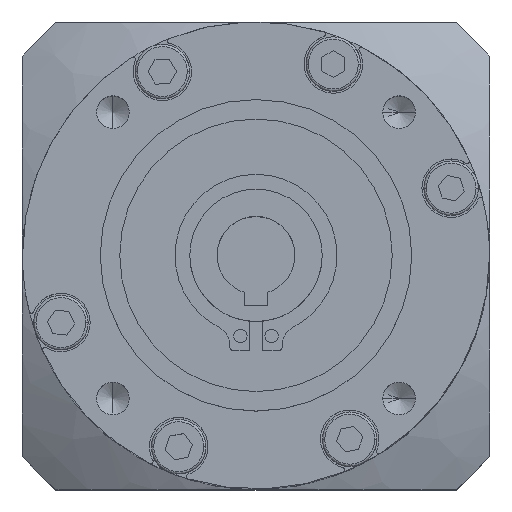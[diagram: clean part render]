
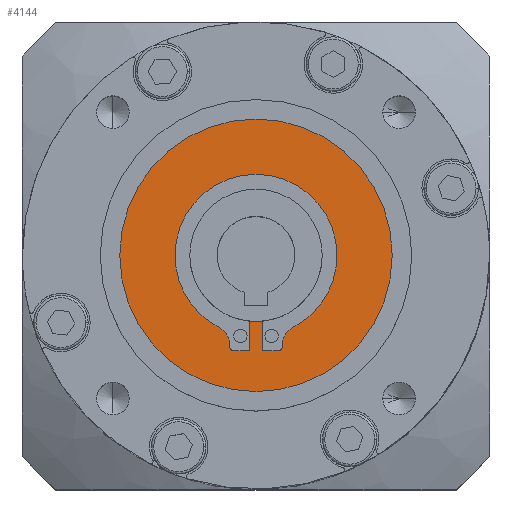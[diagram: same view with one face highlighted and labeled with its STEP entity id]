
A CAD part, top view. The second image highlights one B-rep face of the part: STEP entity #4144.
In plain terms, the highlighted planar face has unit normal (0, 0, 1).
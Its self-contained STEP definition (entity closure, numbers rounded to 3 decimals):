
#745 = CIRCLE ( 'NONE', #38948, 17.5 ) ;
#1318 = CARTESIAN_POINT ( 'NONE',  ( -2.85, -11.757, -1. ) ) ;
#1343 = VERTEX_POINT ( 'NONE', #37160 ) ;
#1429 = EDGE_CURVE ( 'NONE', #5023, #18640, #12507, .T. ) ;
#1853 = CARTESIAN_POINT ( 'NONE',  ( -4.716, -9.269, -1. ) ) ;
#1964 = CARTESIAN_POINT ( 'NONE',  ( 4.716, -9.269, -1. ) ) ;
#2012 = AXIS2_PLACEMENT_3D ( 'NONE', #28130, #9085, #31294 ) ;
#2051 = LINE ( 'NONE', #25448, #34850 ) ;
#2143 = AXIS2_PLACEMENT_3D ( 'NONE', #1318, #23572, #4523 ) ;
#2567 = CARTESIAN_POINT ( 'NONE',  ( 17.5, 0., -1. ) ) ;
#2806 = DIRECTION ( 'NONE',  ( -1., 0., 0. ) ) ;
#2986 = CARTESIAN_POINT ( 'NONE',  ( -0.85, -12.257, -1. ) ) ;
#3207 = CARTESIAN_POINT ( 'NONE',  ( 0., 0., -1. ) ) ;
#3408 = CARTESIAN_POINT ( 'NONE',  ( 0., 0., -1. ) ) ;
#3739 = VERTEX_POINT ( 'NONE', #2567 ) ;
#3825 = ORIENTED_EDGE ( 'NONE', *, *, #6936, .F. ) ;
#4043 = EDGE_LOOP ( 'NONE', ( #36803, #24426 ) ) ;
#4144 = ADVANCED_FACE ( 'NONE', ( #32284, #40715 ), #7461, .F. ) ;
#4146 = DIRECTION ( 'NONE',  ( 0., 0., 1. ) ) ;
#4301 = CARTESIAN_POINT ( 'NONE',  ( 10.4, 0., -1. ) ) ;
#4523 = DIRECTION ( 'NONE',  ( -1., 0., 0. ) ) ;
#4553 = VERTEX_POINT ( 'NONE', #16538 ) ;
#4583 = DIRECTION ( 'NONE',  ( 0., 0., 1. ) ) ;
#4636 = DIRECTION ( 'NONE',  ( 0., 0., -1. ) ) ;
#5023 = VERTEX_POINT ( 'NONE', #7530 ) ;
#5799 = CARTESIAN_POINT ( 'NONE',  ( -3.35, -11.497, -1. ) ) ;
#6125 = CIRCLE ( 'NONE', #35003, 10.4 ) ;
#6424 = DIRECTION ( 'NONE',  ( 1., 0., 0. ) ) ;
#6484 = VERTEX_POINT ( 'NONE', #4301 ) ;
#6685 = EDGE_CURVE ( 'NONE', #17704, #10187, #32875, .T. ) ;
#6919 = CARTESIAN_POINT ( 'NONE',  ( 0., 0., -1. ) ) ;
#6936 = EDGE_CURVE ( 'NONE', #22009, #4553, #33363, .T. ) ;
#7156 = DIRECTION ( 'NONE',  ( -1., 0., 0. ) ) ;
#7461 = PLANE ( 'NONE',  #14784 ) ;
#7530 = CARTESIAN_POINT ( 'NONE',  ( 3.35, -11.497, -1. ) ) ;
#7816 = DIRECTION ( 'NONE',  ( 0., -1., 0. ) ) ;
#8199 = ORIENTED_EDGE ( 'NONE', *, *, #37692, .F. ) ;
#8446 = EDGE_CURVE ( 'NONE', #40329, #37466, #30286, .T. ) ;
#8501 = ORIENTED_EDGE ( 'NONE', *, *, #37890, .F. ) ;
#9085 = DIRECTION ( 'NONE',  ( 0., 0., -1. ) ) ;
#9141 = CARTESIAN_POINT ( 'NONE',  ( 0., -12.257, -1. ) ) ;
#9271 = EDGE_CURVE ( 'NONE', #37466, #11276, #30253, .T. ) ;
#9433 = ORIENTED_EDGE ( 'NONE', *, *, #9650, .F. ) ;
#9515 = EDGE_CURVE ( 'NONE', #1343, #5023, #17773, .T. ) ;
#9588 = CIRCLE ( 'NONE', #21454, 2.5 ) ;
#9650 = EDGE_CURVE ( 'NONE', #10187, #1343, #32723, .T. ) ;
#9731 = VERTEX_POINT ( 'NONE', #20419 ) ;
#10082 = DIRECTION ( 'NONE',  ( -1., 0., 0. ) ) ;
#10187 = VERTEX_POINT ( 'NONE', #19075 ) ;
#11023 = EDGE_CURVE ( 'NONE', #6484, #12918, #29640, .T. ) ;
#11276 = VERTEX_POINT ( 'NONE', #40035 ) ;
#12079 = ORIENTED_EDGE ( 'NONE', *, *, #8446, .F. ) ;
#12278 = ORIENTED_EDGE ( 'NONE', *, *, #1429, .F. ) ;
#12507 = CIRCLE ( 'NONE', #2012, 2.5 ) ;
#12918 = VERTEX_POINT ( 'NONE', #33175 ) ;
#13270 = DIRECTION ( 'NONE',  ( 0., 0., 1. ) ) ;
#13808 = DIRECTION ( 'NONE',  ( 0., 0., -1. ) ) ;
#14036 = CARTESIAN_POINT ( 'NONE',  ( -3.35, 0., -1. ) ) ;
#14115 = AXIS2_PLACEMENT_3D ( 'NONE', #23203, #4146, #26389 ) ;
#14776 = CARTESIAN_POINT ( 'NONE',  ( -3.35, -11.757, -1. ) ) ;
#14784 = AXIS2_PLACEMENT_3D ( 'NONE', #26483, #13808, #36045 ) ;
#14943 = ORIENTED_EDGE ( 'NONE', *, *, #11023, .F. ) ;
#14944 = VECTOR ( 'NONE', #21512, 1000. ) ;
#15056 = ORIENTED_EDGE ( 'NONE', *, *, #29204, .F. ) ;
#15405 = AXIS2_PLACEMENT_3D ( 'NONE', #40872, #21872, #2806 ) ;
#15541 = ORIENTED_EDGE ( 'NONE', *, *, #32177, .F. ) ;
#16538 = CARTESIAN_POINT ( 'NONE',  ( 0.85, -8.457, -1. ) ) ;
#17704 = VERTEX_POINT ( 'NONE', #23843 ) ;
#17763 = LINE ( 'NONE', #20360, #35701 ) ;
#17773 = LINE ( 'NONE', #31945, #33723 ) ;
#17792 = VERTEX_POINT ( 'NONE', #1853 ) ;
#18640 = VERTEX_POINT ( 'NONE', #1964 ) ;
#19075 = CARTESIAN_POINT ( 'NONE',  ( 2.85, -12.257, -1. ) ) ;
#20102 = VECTOR ( 'NONE', #28192, 1000. ) ;
#20360 = CARTESIAN_POINT ( 'NONE',  ( 0.85, 0., -1. ) ) ;
#20419 = CARTESIAN_POINT ( 'NONE',  ( -17.5, 0., -1. ) ) ;
#20433 = ORIENTED_EDGE ( 'NONE', *, *, #9271, .F. ) ;
#21136 = EDGE_LOOP ( 'NONE', ( #15056, #20433, #12079, #8501, #8199, #14943, #37512, #12278, #27686, #9433, #37081, #23666, #3825, #15541 ) ) ;
#21454 = AXIS2_PLACEMENT_3D ( 'NONE', #23693, #4636, #26888 ) ;
#21512 = DIRECTION ( 'NONE',  ( 1., 0., 0. ) ) ;
#21857 = VECTOR ( 'NONE', #7816, 1000. ) ;
#21872 = DIRECTION ( 'NONE',  ( 0., 0., 1. ) ) ;
#22009 = VERTEX_POINT ( 'NONE', #26065 ) ;
#22130 = CIRCLE ( 'NONE', #31746, 17.5 ) ;
#22146 = EDGE_CURVE ( 'NONE', #4553, #17704, #17763, .T. ) ;
#22390 = DIRECTION ( 'NONE',  ( 0., 1., 0. ) ) ;
#23203 = CARTESIAN_POINT ( 'NONE',  ( 2.85, -11.757, -1. ) ) ;
#23572 = DIRECTION ( 'NONE',  ( 0., 0., 1. ) ) ;
#23632 = CARTESIAN_POINT ( 'NONE',  ( 0., 0., -1. ) ) ;
#23666 = ORIENTED_EDGE ( 'NONE', *, *, #22146, .F. ) ;
#23693 = CARTESIAN_POINT ( 'NONE',  ( -5.85, -11.497, -1. ) ) ;
#23843 = CARTESIAN_POINT ( 'NONE',  ( 0.85, -12.257, -1. ) ) ;
#24331 = EDGE_CURVE ( 'NONE', #18640, #6484, #30582, .T. ) ;
#24426 = ORIENTED_EDGE ( 'NONE', *, *, #24872, .T. ) ;
#24872 = EDGE_CURVE ( 'NONE', #9731, #3739, #745, .T. ) ;
#25041 = EDGE_CURVE ( 'NONE', #3739, #9731, #22130, .T. ) ;
#25448 = CARTESIAN_POINT ( 'NONE',  ( -0.85, 0., -1. ) ) ;
#25459 = DIRECTION ( 'NONE',  ( 0., 0., 1. ) ) ;
#25567 = DIRECTION ( 'NONE',  ( 0., 1., 0. ) ) ;
#25631 = DIRECTION ( 'NONE',  ( 0., 0., 1. ) ) ;
#26065 = CARTESIAN_POINT ( 'NONE',  ( -0.85, -8.457, -1. ) ) ;
#26389 = DIRECTION ( 'NONE',  ( -1., 0., 0. ) ) ;
#26483 = CARTESIAN_POINT ( 'NONE',  ( 0., 0., -1. ) ) ;
#26823 = DIRECTION ( 'NONE',  ( 1., 0., 0. ) ) ;
#26888 = DIRECTION ( 'NONE',  ( -1., 0., 0. ) ) ;
#27686 = ORIENTED_EDGE ( 'NONE', *, *, #9515, .F. ) ;
#27764 = CARTESIAN_POINT ( 'NONE',  ( 0., -12.257, -1. ) ) ;
#28130 = CARTESIAN_POINT ( 'NONE',  ( 5.85, -11.497, -1. ) ) ;
#28192 = DIRECTION ( 'NONE',  ( 1., 0., 0. ) ) ;
#29086 = AXIS2_PLACEMENT_3D ( 'NONE', #6919, #29135, #10082 ) ;
#29135 = DIRECTION ( 'NONE',  ( 0., 0., 1. ) ) ;
#29204 = EDGE_CURVE ( 'NONE', #11276, #35077, #29530, .T. ) ;
#29530 = LINE ( 'NONE', #9141, #20102 ) ;
#29640 = CIRCLE ( 'NONE', #15405, 10.4 ) ;
#30253 = CIRCLE ( 'NONE', #2143, 0.5 ) ;
#30286 = LINE ( 'NONE', #14036, #21857 ) ;
#30582 = CIRCLE ( 'NONE', #29086, 10.4 ) ;
#31294 = DIRECTION ( 'NONE',  ( -1., 0., 0. ) ) ;
#31746 = AXIS2_PLACEMENT_3D ( 'NONE', #23632, #4583, #26823 ) ;
#31945 = CARTESIAN_POINT ( 'NONE',  ( 3.35, 0., -1. ) ) ;
#32177 = EDGE_CURVE ( 'NONE', #35077, #22009, #2051, .T. ) ;
#32284 = FACE_BOUND ( 'NONE', #21136, .T. ) ;
#32338 = CARTESIAN_POINT ( 'NONE',  ( 0., 0., -1. ) ) ;
#32723 = CIRCLE ( 'NONE', #14115, 0.5 ) ;
#32875 = LINE ( 'NONE', #27764, #14944 ) ;
#33175 = CARTESIAN_POINT ( 'NONE',  ( -10.4, 0., -1. ) ) ;
#33363 = CIRCLE ( 'NONE', #38311, 8.5 ) ;
#33723 = VECTOR ( 'NONE', #25567, 1000. ) ;
#34850 = VECTOR ( 'NONE', #22390, 1000. ) ;
#35003 = AXIS2_PLACEMENT_3D ( 'NONE', #3408, #25631, #7156 ) ;
#35077 = VERTEX_POINT ( 'NONE', #2986 ) ;
#35514 = DIRECTION ( 'NONE',  ( -1., 0., 0. ) ) ;
#35701 = VECTOR ( 'NONE', #39386, 1000. ) ;
#36045 = DIRECTION ( 'NONE',  ( -1., 0., 0. ) ) ;
#36803 = ORIENTED_EDGE ( 'NONE', *, *, #25041, .T. ) ;
#37081 = ORIENTED_EDGE ( 'NONE', *, *, #6685, .F. ) ;
#37160 = CARTESIAN_POINT ( 'NONE',  ( 3.35, -11.757, -1. ) ) ;
#37466 = VERTEX_POINT ( 'NONE', #14776 ) ;
#37512 = ORIENTED_EDGE ( 'NONE', *, *, #24331, .F. ) ;
#37692 = EDGE_CURVE ( 'NONE', #12918, #17792, #6125, .T. ) ;
#37890 = EDGE_CURVE ( 'NONE', #17792, #40329, #9588, .T. ) ;
#38311 = AXIS2_PLACEMENT_3D ( 'NONE', #32338, #13270, #35514 ) ;
#38948 = AXIS2_PLACEMENT_3D ( 'NONE', #3207, #25459, #6424 ) ;
#39386 = DIRECTION ( 'NONE',  ( 0., -1., 0. ) ) ;
#40035 = CARTESIAN_POINT ( 'NONE',  ( -2.85, -12.257, -1. ) ) ;
#40329 = VERTEX_POINT ( 'NONE', #5799 ) ;
#40715 = FACE_OUTER_BOUND ( 'NONE', #4043, .T. ) ;
#40872 = CARTESIAN_POINT ( 'NONE',  ( 0., 0., -1. ) ) ;
